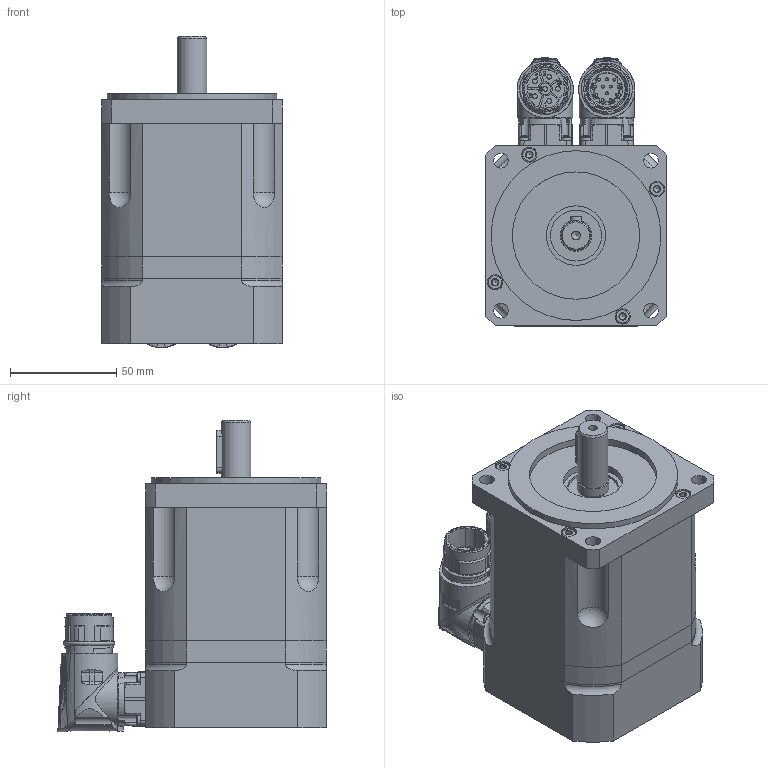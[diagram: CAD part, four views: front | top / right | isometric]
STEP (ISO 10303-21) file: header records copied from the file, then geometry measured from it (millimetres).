
FILE_DESCRIPTION(/* description */ (''),/* implementation_level */ '2;1');
FILE_NAME(/* name */ 'C:\Users\Public\Documents\Autodesk\Inventor LT 2014\Workspace\Motori Sito WEB\TG_3\STEP_DSM5_3x\DSM5_31_x097.stp',/* time_stamp */ '2021-03-31T14:10:25+02:00',/* author */ ('marcor'),/* organization */ (''),/* preprocessor_version */ 'ST-DEVELOPER v15.2',/* originating_system */ 'Autodesk Inventor LT ',/* authorisation */ '');
FILE_SCHEMA (('AUTOMOTIVE_DESIGN { 1 0 10303 214 3 1 1 }'));
Products named in the file (1): DSM5_31_x097
Bounding box: 85 x 126.5 x 146.81 mm (x, y, z)
Volume: 834908.4 mm3; surface area: 121641.8 mm2
Topology: 16 solids, 26 shells, 1426 faces, 3697 edges, 2459 vertices
Faces by surface type: plane 523, cylinder 436, cone 247, bspline 113, torus 75, sphere 32
Full cylindrical faces by diameter (mm): 1.2 x12, 2.224 x8, 2.233 x6, 2.5 x8, 2.88 x8, 3.242 x12, 3.26 x8, 4 x12, 4.134 x1, 4.5 x14, 4.8 x8, 5.5 x3, 5.9 x2, 7 x16, 7.2 x8, 7.5 x4, 13.8 x1, 14 x1, 14.98 x1, 15.2 x1, 17.4 x3, 18 x1, 19.8 x1, 21.15 x4, 21.6 x1, 21.653 x2, 24 x1, 24.3 x2, 28 x1, 35 x2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
Entity records: 50570 total; most frequent: CARTESIAN_POINT 17558, ORIENTED_EDGE 6526, DIRECTION 6079, EDGE_CURVE 3263, AXIS2_PLACEMENT_3D 2496, VERTEX_POINT 2349, EDGE_LOOP 1944, ADVANCED_FACE 1426
